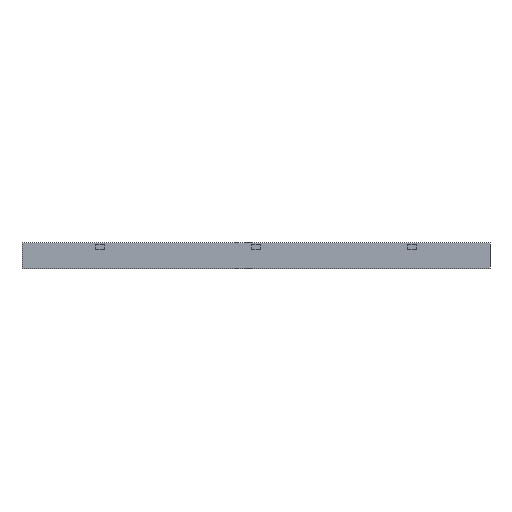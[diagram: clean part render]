
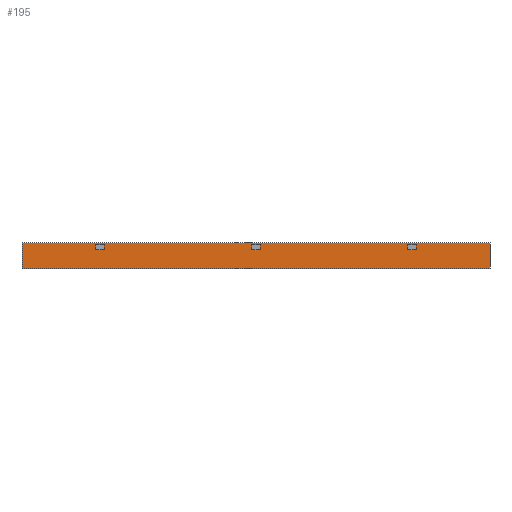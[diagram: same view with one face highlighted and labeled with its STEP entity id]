
A CAD part, left-side view. The second image highlights one B-rep face of the part: STEP entity #195.
In plain terms, the highlighted planar face has unit normal (-1, 0, 0).
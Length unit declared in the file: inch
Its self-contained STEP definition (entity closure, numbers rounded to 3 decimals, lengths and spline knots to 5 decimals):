
#17=FACE_BOUND('',#643,.T.);
#18=FACE_BOUND('',#644,.T.);
#19=FACE_BOUND('',#645,.T.);
#195=ADVANCED_FACE('',(#417,#17,#18,#19),#3789,.T.);
#417=FACE_OUTER_BOUND('',#642,.T.);
#642=EDGE_LOOP('',(#1272,#1273,#1274,#1275));
#643=EDGE_LOOP('',(#1276,#1277,#1278,#1279));
#644=EDGE_LOOP('',(#1280,#1281,#1282,#1283));
#645=EDGE_LOOP('',(#1284,#1285,#1286,#1287));
#1272=ORIENTED_EDGE('',*,*,#2368,.T.);
#1273=ORIENTED_EDGE('',*,*,#2369,.T.);
#1274=ORIENTED_EDGE('',*,*,#2370,.T.);
#1275=ORIENTED_EDGE('',*,*,#2371,.T.);
#1276=ORIENTED_EDGE('',*,*,#2162,.F.);
#1277=ORIENTED_EDGE('',*,*,#2192,.F.);
#1278=ORIENTED_EDGE('',*,*,#2129,.F.);
#1279=ORIENTED_EDGE('',*,*,#2092,.F.);
#1280=ORIENTED_EDGE('',*,*,#2318,.F.);
#1281=ORIENTED_EDGE('',*,*,#2348,.F.);
#1282=ORIENTED_EDGE('',*,*,#2285,.F.);
#1283=ORIENTED_EDGE('',*,*,#2248,.F.);
#1284=ORIENTED_EDGE('',*,*,#2375,.T.);
#1285=ORIENTED_EDGE('',*,*,#2372,.T.);
#1286=ORIENTED_EDGE('',*,*,#2373,.T.);
#1287=ORIENTED_EDGE('',*,*,#2374,.T.);
#2092=EDGE_CURVE('',#3316,#3317,#2704,.T.);
#2129=EDGE_CURVE('',#3317,#3342,#2741,.T.);
#2162=EDGE_CURVE('',#3364,#3316,#2774,.T.);
#2192=EDGE_CURVE('',#3342,#3364,#2804,.T.);
#2248=EDGE_CURVE('',#3420,#3421,#2860,.T.);
#2285=EDGE_CURVE('',#3421,#3446,#2897,.T.);
#2318=EDGE_CURVE('',#3468,#3420,#2930,.T.);
#2348=EDGE_CURVE('',#3446,#3468,#2960,.T.);
#2368=EDGE_CURVE('',#3488,#3489,#2980,.T.);
#2369=EDGE_CURVE('',#3489,#3490,#2981,.T.);
#2370=EDGE_CURVE('',#3490,#3491,#2982,.T.);
#2371=EDGE_CURVE('',#3491,#3488,#2983,.T.);
#2372=EDGE_CURVE('',#3492,#3493,#2984,.T.);
#2373=EDGE_CURVE('',#3493,#3494,#2985,.T.);
#2374=EDGE_CURVE('',#3494,#3495,#2986,.T.);
#2375=EDGE_CURVE('',#3495,#3492,#2987,.T.);
#2704=B_SPLINE_CURVE_WITH_KNOTS('',1,(#5161,#5162),.UNSPECIFIED.,.F.,.F.,
(2,2),(0.,1.25),.UNSPECIFIED.);
#2741=B_SPLINE_CURVE_WITH_KNOTS('',1,(#5235,#5236),.UNSPECIFIED.,.F.,.F.,
(2,2),(0.,0.75),.UNSPECIFIED.);
#2774=B_SPLINE_CURVE_WITH_KNOTS('',1,(#5301,#5302),.UNSPECIFIED.,.F.,.F.,
(2,2),(0.,0.75),.UNSPECIFIED.);
#2804=B_SPLINE_CURVE_WITH_KNOTS('',1,(#5361,#5362),.UNSPECIFIED.,.F.,.F.,
(2,2),(0.,1.25),.UNSPECIFIED.);
#2860=B_SPLINE_CURVE_WITH_KNOTS('',1,(#5473,#5474),.UNSPECIFIED.,.F.,.F.,
(2,2),(0.,1.25),.UNSPECIFIED.);
#2897=B_SPLINE_CURVE_WITH_KNOTS('',1,(#5547,#5548),.UNSPECIFIED.,.F.,.F.,
(2,2),(0.,0.75),.UNSPECIFIED.);
#2930=B_SPLINE_CURVE_WITH_KNOTS('',1,(#5613,#5614),.UNSPECIFIED.,.F.,.F.,
(2,2),(0.,0.75),.UNSPECIFIED.);
#2960=B_SPLINE_CURVE_WITH_KNOTS('',1,(#5673,#5674),.UNSPECIFIED.,.F.,.F.,
(2,2),(0.,1.25),.UNSPECIFIED.);
#2980=B_SPLINE_CURVE_WITH_KNOTS('',1,(#5713,#5714),.UNSPECIFIED.,.F.,.F.,
(2,2),(0.,72.),.UNSPECIFIED.);
#2981=B_SPLINE_CURVE_WITH_KNOTS('',1,(#5715,#5716),.UNSPECIFIED.,.F.,.F.,
(2,2),(0.,4.),.UNSPECIFIED.);
#2982=B_SPLINE_CURVE_WITH_KNOTS('',1,(#5717,#5718),.UNSPECIFIED.,.F.,.F.,
(2,2),(0.,72.),.UNSPECIFIED.);
#2983=B_SPLINE_CURVE_WITH_KNOTS('',1,(#5719,#5720),.UNSPECIFIED.,.F.,.F.,
(2,2),(0.,4.),.UNSPECIFIED.);
#2984=B_SPLINE_CURVE_WITH_KNOTS('',1,(#5721,#5722),.UNSPECIFIED.,.F.,.F.,
(2,2),(0.,1.25),.UNSPECIFIED.);
#2985=B_SPLINE_CURVE_WITH_KNOTS('',1,(#5723,#5724),.UNSPECIFIED.,.F.,.F.,
(2,2),(0.,0.75),.UNSPECIFIED.);
#2986=B_SPLINE_CURVE_WITH_KNOTS('',1,(#5725,#5726),.UNSPECIFIED.,.F.,.F.,
(2,2),(0.,1.25),.UNSPECIFIED.);
#2987=B_SPLINE_CURVE_WITH_KNOTS('',1,(#5727,#5728),.UNSPECIFIED.,.F.,.F.,
(2,2),(0.,0.75),.UNSPECIFIED.);
#3316=VERTEX_POINT('',#4709);
#3317=VERTEX_POINT('',#4710);
#3342=VERTEX_POINT('',#4735);
#3364=VERTEX_POINT('',#4757);
#3420=VERTEX_POINT('',#4813);
#3421=VERTEX_POINT('',#4814);
#3446=VERTEX_POINT('',#4839);
#3468=VERTEX_POINT('',#4861);
#3488=VERTEX_POINT('',#4881);
#3489=VERTEX_POINT('',#4882);
#3490=VERTEX_POINT('',#4883);
#3491=VERTEX_POINT('',#4884);
#3492=VERTEX_POINT('',#4885);
#3493=VERTEX_POINT('',#4886);
#3494=VERTEX_POINT('',#4887);
#3495=VERTEX_POINT('',#4888);
#3789=PLANE('',#4102);
#4102=AXIS2_PLACEMENT_3D('',#4552,#4327,$);
#4327=DIRECTION('',(-1.,0.,0.));
#4552=CARTESIAN_POINT('',(-21.25,43.20472,2.40472));
#4709=CARTESIAN_POINT('',(-21.25,23.375,1.75));
#4710=CARTESIAN_POINT('',(-21.25,24.625,1.75));
#4735=CARTESIAN_POINT('',(-21.25,24.625,1.));
#4757=CARTESIAN_POINT('',(-21.25,23.375,1.));
#4813=CARTESIAN_POINT('',(-21.25,-0.625,1.75));
#4814=CARTESIAN_POINT('',(-21.25,0.625,1.75));
#4839=CARTESIAN_POINT('',(-21.25,0.625,1.));
#4861=CARTESIAN_POINT('',(-21.25,-0.625,1.));
#4881=CARTESIAN_POINT('',(-21.25,36.,-2.));
#4882=CARTESIAN_POINT('',(-21.25,-36.,-2.));
#4883=CARTESIAN_POINT('',(-21.25,-36.,2.));
#4884=CARTESIAN_POINT('',(-21.25,36.,2.));
#4885=CARTESIAN_POINT('',(-21.25,-23.375,1.75));
#4886=CARTESIAN_POINT('',(-21.25,-24.625,1.75));
#4887=CARTESIAN_POINT('',(-21.25,-24.625,1.));
#4888=CARTESIAN_POINT('',(-21.25,-23.375,1.));
#5161=CARTESIAN_POINT('',(-21.25,23.375,1.75));
#5162=CARTESIAN_POINT('',(-21.25,24.625,1.75));
#5235=CARTESIAN_POINT('',(-21.25,24.625,1.75));
#5236=CARTESIAN_POINT('',(-21.25,24.625,1.));
#5301=CARTESIAN_POINT('',(-21.25,23.375,1.));
#5302=CARTESIAN_POINT('',(-21.25,23.375,1.75));
#5361=CARTESIAN_POINT('',(-21.25,24.625,1.));
#5362=CARTESIAN_POINT('',(-21.25,23.375,1.));
#5473=CARTESIAN_POINT('',(-21.25,-0.625,1.75));
#5474=CARTESIAN_POINT('',(-21.25,0.625,1.75));
#5547=CARTESIAN_POINT('',(-21.25,0.625,1.75));
#5548=CARTESIAN_POINT('',(-21.25,0.625,1.));
#5613=CARTESIAN_POINT('',(-21.25,-0.625,1.));
#5614=CARTESIAN_POINT('',(-21.25,-0.625,1.75));
#5673=CARTESIAN_POINT('',(-21.25,0.625,1.));
#5674=CARTESIAN_POINT('',(-21.25,-0.625,1.));
#5713=CARTESIAN_POINT('',(-21.25,36.,-2.));
#5714=CARTESIAN_POINT('',(-21.25,-36.,-2.));
#5715=CARTESIAN_POINT('',(-21.25,-36.,-2.));
#5716=CARTESIAN_POINT('',(-21.25,-36.,2.));
#5717=CARTESIAN_POINT('',(-21.25,-36.,2.));
#5718=CARTESIAN_POINT('',(-21.25,36.,2.));
#5719=CARTESIAN_POINT('',(-21.25,36.,2.));
#5720=CARTESIAN_POINT('',(-21.25,36.,-2.));
#5721=CARTESIAN_POINT('',(-21.25,-23.375,1.75));
#5722=CARTESIAN_POINT('',(-21.25,-24.625,1.75));
#5723=CARTESIAN_POINT('',(-21.25,-24.625,1.75));
#5724=CARTESIAN_POINT('',(-21.25,-24.625,1.));
#5725=CARTESIAN_POINT('',(-21.25,-24.625,1.));
#5726=CARTESIAN_POINT('',(-21.25,-23.375,1.));
#5727=CARTESIAN_POINT('',(-21.25,-23.375,1.));
#5728=CARTESIAN_POINT('',(-21.25,-23.375,1.75));
